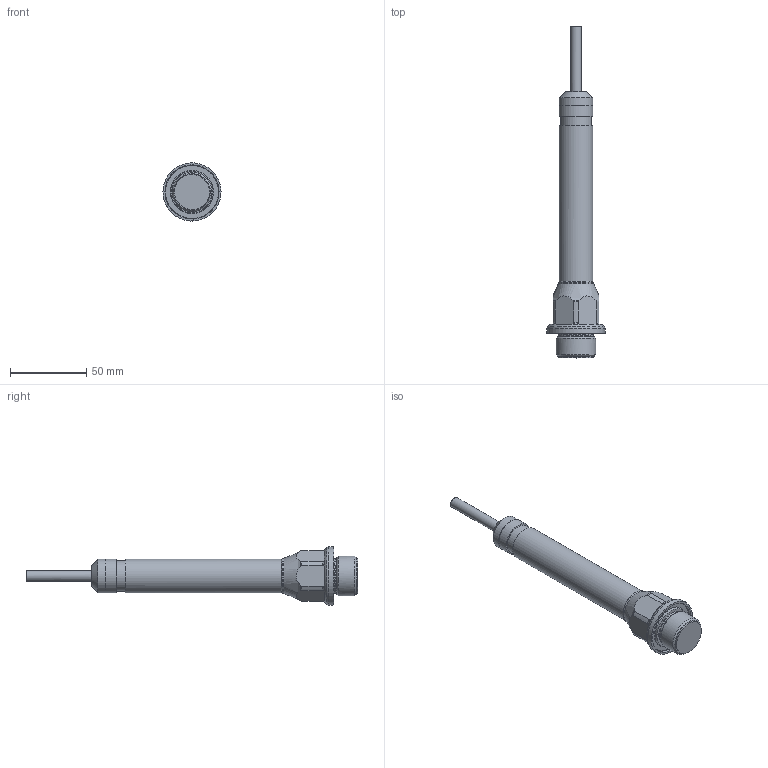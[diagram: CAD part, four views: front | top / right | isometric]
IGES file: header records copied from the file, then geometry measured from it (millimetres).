
Global section: file name: NZK; native system: Autodesk Inventor 2015; preprocessor: unknown; author: aantal; date: 20150708.083627; units: millimetre
Bounding box: 38 x 217 x 37.97 mm (x, y, z)
Volume: 80988.3 mm3; surface area: 16454.7 mm2
Topology: 1 solids, 1 shells, 62 faces, 175 edges, 125 vertices
Faces by surface type: bspline 62
